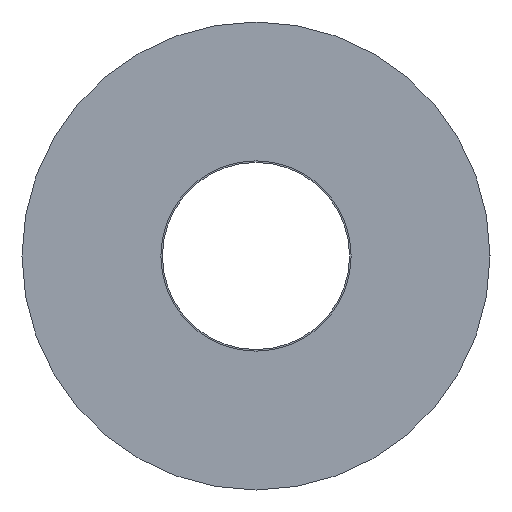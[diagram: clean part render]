
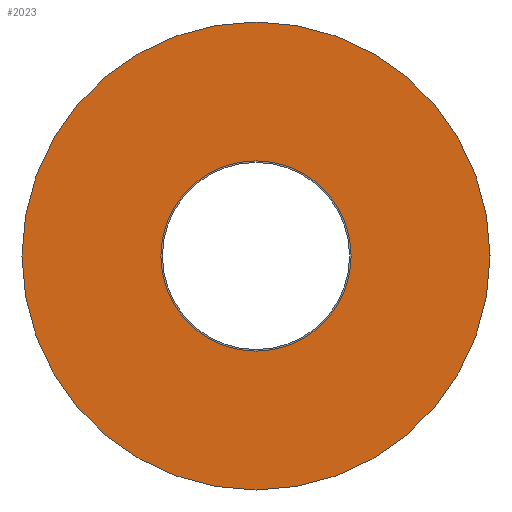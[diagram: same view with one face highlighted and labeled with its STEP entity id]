
A CAD part, left-side view. The second image highlights one B-rep face of the part: STEP entity #2023.
In plain terms, the highlighted planar face has unit normal (-1, 0, 0).
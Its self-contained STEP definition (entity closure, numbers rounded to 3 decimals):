
#511=CARTESIAN_POINT('',(0.,0.,0.));
#512=DIRECTION('',(1.,0.,0.));
#513=DIRECTION('',(0.,0.,1.));
#514=AXIS2_PLACEMENT_3D('',#511,#512,#513);
#519=CARTESIAN_POINT('',(0.,0.,0.));
#520=DIRECTION('',(1.,0.,0.));
#521=DIRECTION('',(0.,0.,-1.));
#522=AXIS2_PLACEMENT_3D('',#519,#520,#521);
#550=CARTESIAN_POINT('',(0.,0.,0.));
#551=DIRECTION('',(1.,0.,0.));
#552=DIRECTION('',(0.,0.,-1.));
#553=AXIS2_PLACEMENT_3D('',#550,#551,#552);
#597=CARTESIAN_POINT('',(0.,0.,0.));
#598=DIRECTION('',(1.,0.,0.));
#599=DIRECTION('',(0.,0.,1.));
#600=AXIS2_PLACEMENT_3D('',#597,#598,#599);
#1543=CARTESIAN_POINT('',(0.,0.,15.));
#1544=VERTEX_POINT('',#1543);
#1545=CARTESIAN_POINT('',(0.,0.,-15.));
#1546=VERTEX_POINT('',#1545);
#1551=CARTESIAN_POINT('',(0.,0.,6.1));
#1552=CARTESIAN_POINT('',(0.,0.,-6.1));
#1553=VERTEX_POINT('',#1551);
#1554=VERTEX_POINT('',#1552);
#2007=CARTESIAN_POINT('',(0.,0.,0.));
#2008=DIRECTION('',(1.,0.,0.));
#2009=DIRECTION('',(0.,1.,0.));
#2010=AXIS2_PLACEMENT_3D('',#2007,#2008,#2009);
#2011=PLANE('',#2010);
#2012=ORIENTED_EDGE('',*,*,#1997,.T.);
#2014=ORIENTED_EDGE('',*,*,#2013,.T.);
#2015=EDGE_LOOP('',(#2012,#2014));
#2016=FACE_OUTER_BOUND('',#2015,.F.);
#2018=ORIENTED_EDGE('',*,*,#2017,.F.);
#2020=ORIENTED_EDGE('',*,*,#2019,.F.);
#2021=EDGE_LOOP('',(#2018,#2020));
#2022=FACE_BOUND('',#2021,.F.);
#515=CIRCLE('',#514,15.);
#523=CIRCLE('',#522,15.);
#554=CIRCLE('',#553,6.1);
#601=CIRCLE('',#600,6.1);
#1997=EDGE_CURVE('',#1544,#1546,#515,.T.);
#2013=EDGE_CURVE('',#1546,#1544,#523,.T.);
#2017=EDGE_CURVE('',#1554,#1553,#554,.T.);
#2019=EDGE_CURVE('',#1553,#1554,#601,.T.);
#2023=ADVANCED_FACE('',(#2016,#2022),#2011,.F.);
